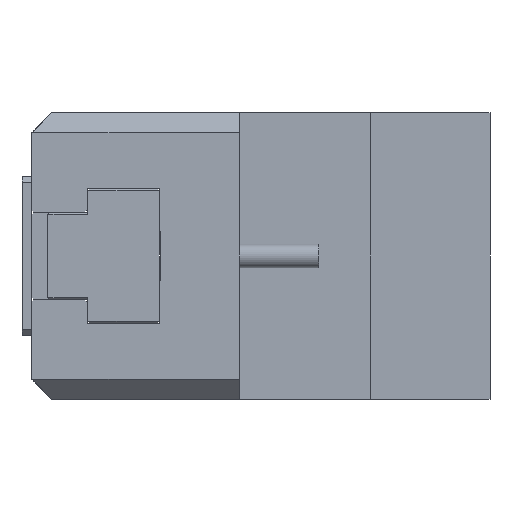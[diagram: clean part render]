
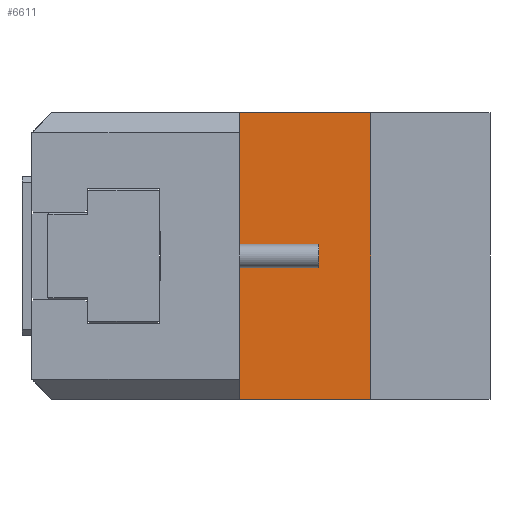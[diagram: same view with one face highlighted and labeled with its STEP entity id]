
A CAD part, left-side view. The second image highlights one B-rep face of the part: STEP entity #6611.
In plain terms, the highlighted planar face has unit normal (-1, 0, 0).
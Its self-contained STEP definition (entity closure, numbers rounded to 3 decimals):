
#471 = VECTOR ( 'NONE', #13417, 1000. ) ;
#2150 = VERTEX_POINT ( 'NONE', #40459 ) ;
#3574 = EDGE_CURVE ( 'NONE', #18601, #2150, #26305, .T. ) ;
#3803 = EDGE_CURVE ( 'NONE', #18601, #48898, #20184, .T. ) ;
#4328 = EDGE_LOOP ( 'NONE', ( #28884, #49880, #20408, #12714 ) ) ;
#6611 = ADVANCED_FACE ( 'NONE', ( #13251 ), #17645, .F. ) ;
#10080 = CARTESIAN_POINT ( 'NONE',  ( -125., 66., 72. ) ) ;
#10236 = VECTOR ( 'NONE', #39838, 1000. ) ;
#10944 = AXIS2_PLACEMENT_3D ( 'NONE', #10080, #37549, #13989 ) ;
#11072 = VERTEX_POINT ( 'NONE', #39547 ) ;
#11210 = DIRECTION ( 'NONE',  ( 0., -1., 0. ) ) ;
#12714 = ORIENTED_EDGE ( 'NONE', *, *, #30211, .T. ) ;
#12725 = CARTESIAN_POINT ( 'NONE',  ( -125., 66., 72. ) ) ;
#13251 = FACE_OUTER_BOUND ( 'NONE', #4328, .T. ) ;
#13417 = DIRECTION ( 'NONE',  ( 0., 0., -1. ) ) ;
#13989 = DIRECTION ( 'NONE',  ( 0., 0., -1. ) ) ;
#15869 = VECTOR ( 'NONE', #11210, 1000. ) ;
#16955 = EDGE_CURVE ( 'NONE', #11072, #2150, #18252, .T. ) ;
#17645 = PLANE ( 'NONE',  #10944 ) ;
#18252 = LINE ( 'NONE', #27945, #10236 ) ;
#18601 = VERTEX_POINT ( 'NONE', #21623 ) ;
#20184 = LINE ( 'NONE', #12725, #471 ) ;
#20408 = ORIENTED_EDGE ( 'NONE', *, *, #3803, .T. ) ;
#21623 = CARTESIAN_POINT ( 'NONE',  ( -125., 66., 72. ) ) ;
#26022 = VECTOR ( 'NONE', #49077, 1000. ) ;
#26305 = LINE ( 'NONE', #49913, #15869 ) ;
#26673 = CARTESIAN_POINT ( 'NONE',  ( -125., 66., -72. ) ) ;
#27945 = CARTESIAN_POINT ( 'NONE',  ( -125., 0., 72. ) ) ;
#28884 = ORIENTED_EDGE ( 'NONE', *, *, #16955, .T. ) ;
#30211 = EDGE_CURVE ( 'NONE', #48898, #11072, #35240, .T. ) ;
#35240 = LINE ( 'NONE', #37193, #26022 ) ;
#37193 = CARTESIAN_POINT ( 'NONE',  ( -125., 66., -72. ) ) ;
#37549 = DIRECTION ( 'NONE',  ( 1., 0., 0. ) ) ;
#39547 = CARTESIAN_POINT ( 'NONE',  ( -125., 0., -72. ) ) ;
#39838 = DIRECTION ( 'NONE',  ( 0., 0., 1. ) ) ;
#40459 = CARTESIAN_POINT ( 'NONE',  ( -125., 0., 72. ) ) ;
#48898 = VERTEX_POINT ( 'NONE', #26673 ) ;
#49077 = DIRECTION ( 'NONE',  ( 0., -1., 0. ) ) ;
#49880 = ORIENTED_EDGE ( 'NONE', *, *, #3574, .F. ) ;
#49913 = CARTESIAN_POINT ( 'NONE',  ( -125., 66., 72. ) ) ;
